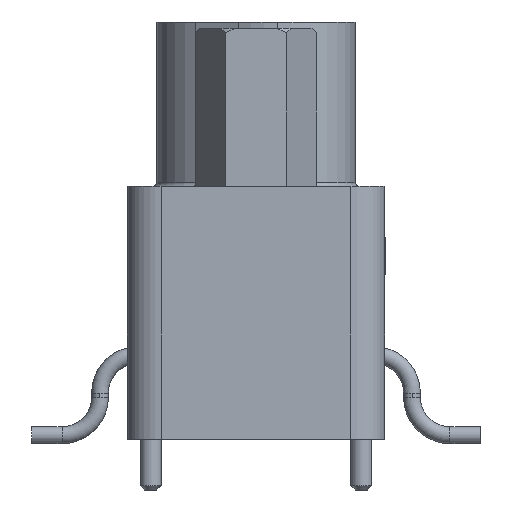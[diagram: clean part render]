
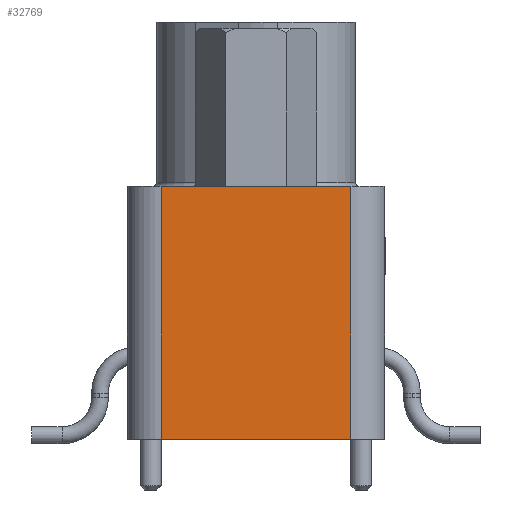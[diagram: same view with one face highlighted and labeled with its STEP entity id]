
A CAD part, left-side view. The second image highlights one B-rep face of the part: STEP entity #32769.
In plain terms, the highlighted planar face has unit normal (-1, 0, 0).
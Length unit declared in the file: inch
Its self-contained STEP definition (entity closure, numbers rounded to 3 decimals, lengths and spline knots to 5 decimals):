
#624 = VERTEX_POINT ( 'NONE', #11429 ) ;
#1811 = CARTESIAN_POINT ( 'NONE',  ( -0.5375, 0.1125, 0.04 ) ) ;
#3028 = EDGE_CURVE ( 'NONE', #624, #27192, #5779, .T. ) ;
#4489 = DIRECTION ( 'NONE',  ( 0., 1., 0. ) ) ;
#4646 = DIRECTION ( 'NONE',  ( 0., 0., -1. ) ) ;
#4928 = CARTESIAN_POINT ( 'NONE',  ( -0.5375, 0.1125, 0.04 ) ) ;
#5222 = LINE ( 'NONE', #12223, #18987 ) ;
#5779 = LINE ( 'NONE', #20984, #20407 ) ;
#6902 = DIRECTION ( 'NONE',  ( 0., 1., 0. ) ) ;
#8091 = DIRECTION ( 'NONE',  ( -1., 0., 0. ) ) ;
#10304 = DIRECTION ( 'NONE',  ( 0., 0., -1. ) ) ;
#10988 = AXIS2_PLACEMENT_3D ( 'NONE', #30115, #8091, #35657 ) ;
#11429 = CARTESIAN_POINT ( 'NONE',  ( -0.5375, -0.1125, 0.04 ) ) ;
#12087 = EDGE_CURVE ( 'NONE', #18406, #27918, #5222, .T. ) ;
#12223 = CARTESIAN_POINT ( 'NONE',  ( -0.5375, -0.1125, -0.26 ) ) ;
#16388 = EDGE_CURVE ( 'NONE', #624, #18406, #29962, .T. ) ;
#16400 = PLANE ( 'NONE',  #10988 ) ;
#17023 = VECTOR ( 'NONE', #10304, 39.37008 ) ;
#17203 = ORIENTED_EDGE ( 'NONE', *, *, #16388, .F. ) ;
#18406 = VERTEX_POINT ( 'NONE', #24007 ) ;
#18987 = VECTOR ( 'NONE', #6902, 39.37008 ) ;
#19338 = EDGE_CURVE ( 'NONE', #27192, #27918, #35036, .T. ) ;
#20384 = VECTOR ( 'NONE', #4646, 39.37008 ) ;
#20407 = VECTOR ( 'NONE', #4489, 39.37008 ) ;
#20925 = ORIENTED_EDGE ( 'NONE', *, *, #12087, .F. ) ;
#20984 = CARTESIAN_POINT ( 'NONE',  ( -0.5375, -0.1125, 0.04 ) ) ;
#21197 = ORIENTED_EDGE ( 'NONE', *, *, #19338, .T. ) ;
#21942 = ORIENTED_EDGE ( 'NONE', *, *, #3028, .T. ) ;
#22225 = FACE_OUTER_BOUND ( 'NONE', #30135, .T. ) ;
#24007 = CARTESIAN_POINT ( 'NONE',  ( -0.5375, -0.1125, -0.26 ) ) ;
#26810 = CARTESIAN_POINT ( 'NONE',  ( -0.5375, -0.1125, 0.04 ) ) ;
#27192 = VERTEX_POINT ( 'NONE', #4928 ) ;
#27918 = VERTEX_POINT ( 'NONE', #35778 ) ;
#29962 = LINE ( 'NONE', #26810, #17023 ) ;
#30115 = CARTESIAN_POINT ( 'NONE',  ( -0.5375, -0.1125, 0.04 ) ) ;
#30135 = EDGE_LOOP ( 'NONE', ( #17203, #21942, #21197, #20925 ) ) ;
#32769 = ADVANCED_FACE ( 'NONE', ( #22225 ), #16400, .T. ) ;
#35036 = LINE ( 'NONE', #1811, #20384 ) ;
#35657 = DIRECTION ( 'NONE',  ( 0., 0., 1. ) ) ;
#35778 = CARTESIAN_POINT ( 'NONE',  ( -0.5375, 0.1125, -0.26 ) ) ;
